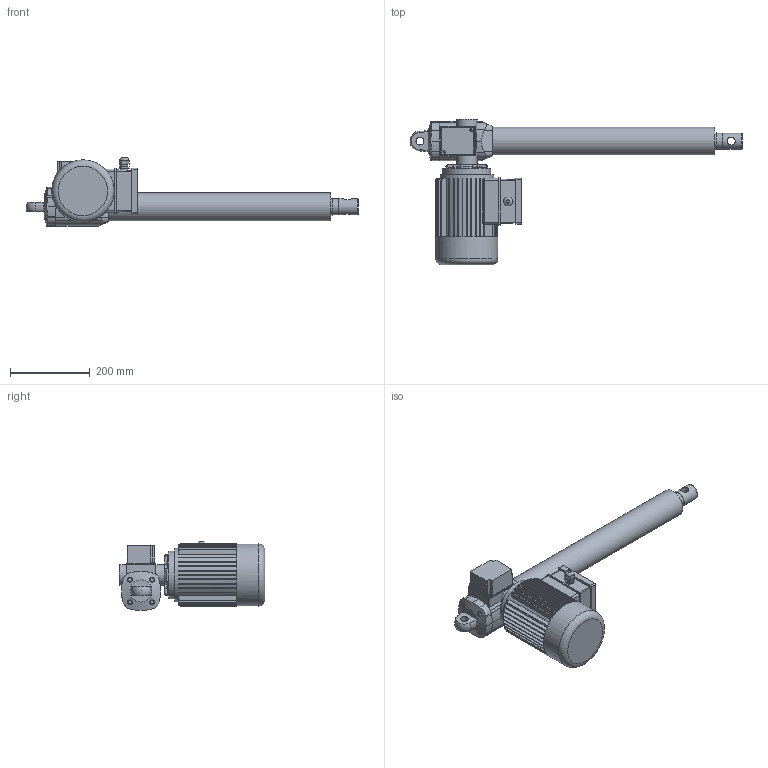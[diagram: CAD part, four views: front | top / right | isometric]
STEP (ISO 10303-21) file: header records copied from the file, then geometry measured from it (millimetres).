
FILE_DESCRIPTION(/* description */ ('STEP AP203'),/* implementation_level */ '2;1');
FILE_NAME(/* name */ 'ALI5-F_0500_0_M04_CA-400_50-T-80-2-1.1_IP55_M0_1_2FC2_P1_A1',/* time_stamp */ '2026-07-08T15:23:32+02:00',/* author */ ('License CC BY-ND 4.0'),/* organization */ ('CADENAS'),/* preprocessor_version */ 'ST-DEVELOPER v20',/* originating_system */ 'PARTsolutions',/* authorisation */ ' ');
FILE_SCHEMA (('CONFIG_CONTROL_DESIGN'));
Length unit declared in the file: millimetre
Products named in the file (6): ALI5-F/0500/0/M04/CA-400/50-T-80-2-1.1/IP55/M0/1/2FC2/P1/A1; corpo_ali5-f5000-110-f; ap_ALI5; gr_800.1-T--; ASTA_ALI-F5000-11-asta; ALI5_A1
Assembly tree (5 placements, depth 2):
  ALI5-F/0500/0/M04/CA-400/50-T-80-2-1.1/IP55/M0/1/2FC2/P1/A1
    corpo_ali5-f5000-110-f
    ap_ALI5
    gr_800.1-T--
    ASTA_ALI-F5000-11-asta
    ALI5_A1
Bounding box: 834 x 366 x 173 mm (x, y, z)
Volume: 8846689.8 mm3; surface area: 727592.6 mm2
Topology: 5 solids, 6 shells, 508 faces, 1389 edges, 920 vertices
Faces by surface type: plane 339, cylinder 102, torus 49, cone 17, sphere 1
Full cylindrical faces by diameter (mm): 7 x2, 12 x4, 18 x1, 20 x2, 20.514 x1, 22 x1, 40 x2, 40.86 x1, 42 x1, 50.872 x1, 70 x1, 90 x1, 105 x1, 120 x1, 135 x1, 156 x1
Entity records: 16349 total; most frequent: CARTESIAN_POINT 3494, ORIENTED_EDGE 2676, DIRECTION 2620, EDGE_CURVE 1338, AXIS2_PLACEMENT_3D 923, VERTEX_POINT 904, LINE 774, VECTOR 774
